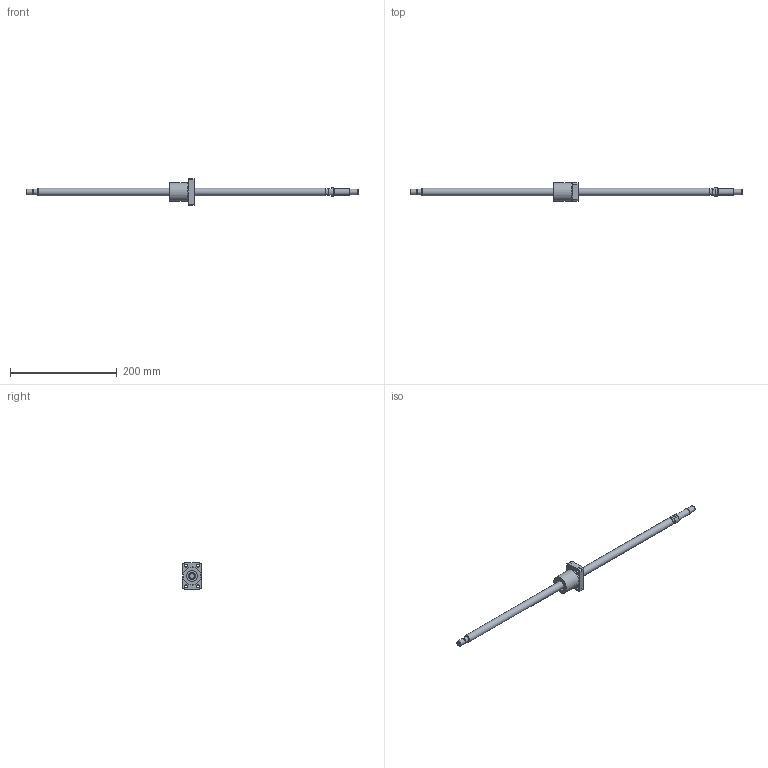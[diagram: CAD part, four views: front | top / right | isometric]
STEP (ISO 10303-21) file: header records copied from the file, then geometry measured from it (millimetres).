
FILE_DESCRIPTION(/* description */ ('STEP AP203'),/* implementation_level */ '2;1');
FILE_NAME(/* name */ 'BNK1408-2.5RRG0+621LC5Y(292.50)',/* time_stamp */ '2024-07-09T09:17:42+02:00',/* author */ ('License CC BY-ND 4.0'),/* organization */ ('CADENAS'),/* preprocessor_version */ 'ST-DEVELOPER v19.3',/* originating_system */ 'PARTsolutions',/* authorisation */ ' ');
FILE_SCHEMA (('CONFIG_CONTROL_DESIGN'));
Length unit declared in the file: millimetre
Products named in the file (3): BNK1408-2.5RRG0+621LC5Y(292.50); BNK 1408-2.5RRG0+621LC5Y Shaft; BNK 1408-2.5RRG0+621LC5YRR0 Nut
Assembly tree (2 placements, depth 2):
  BNK1408-2.5RRG0+621LC5Y(292.50)
    BNK 1408-2.5RRG0+621LC5Y Shaft
    BNK 1408-2.5RRG0+621LC5YRR0 Nut
Bounding box: 621 x 34 x 50 mm (x, y, z)
Volume: 130185.2 mm3; surface area: 38959.3 mm2
Topology: 2 solids, 2 shells, 74 faces, 159 edges, 102 vertices
Faces by surface type: plane 28, cylinder 27, cone 17, torus 2
Full cylindrical faces by diameter (mm): 4.917 x2, 5.5 x4, 9.5 x4, 9.6 x1, 10 x3, 12 x2, 14 x2, 15 x1, 21 x2, 33.4 x1, 34 x1
Entity records: 1940 total; most frequent: CARTESIAN_POINT 349, DIRECTION 336, ORIENTED_EDGE 242, AXIS2_PLACEMENT_3D 155, FACE_BOUND 134, EDGE_LOOP 133, EDGE_CURVE 121, VERTEX_POINT 99
